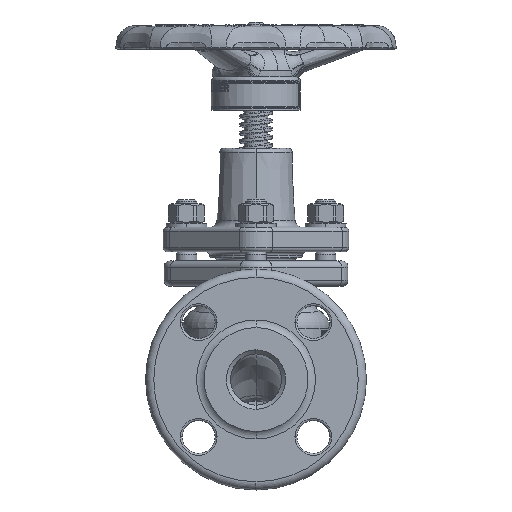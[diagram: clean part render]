
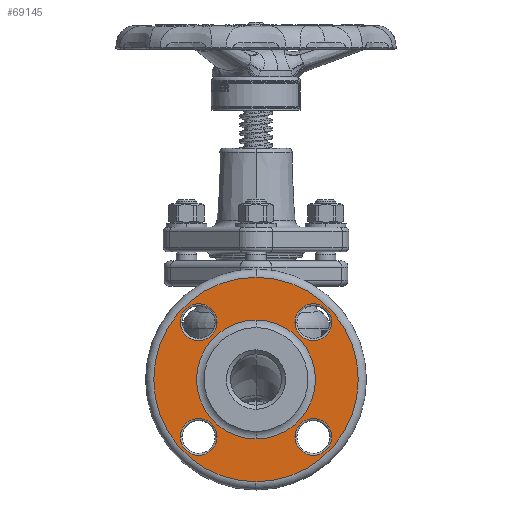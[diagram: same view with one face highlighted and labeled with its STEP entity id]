
A CAD part, left-side view. The second image highlights one B-rep face of the part: STEP entity #69145.
In plain terms, the highlighted planar face has unit normal (-1, 0, 0).
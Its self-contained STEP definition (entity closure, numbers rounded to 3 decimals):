
#12141=CARTESIAN_POINT('',(-61.9,0.,0.));
#12142=DIRECTION('',(-1.,0.,0.));
#12143=DIRECTION('',(0.,0.,1.));
#12144=AXIS2_PLACEMENT_3D('',#12141,#12142,#12143);
#12156=CARTESIAN_POINT('',(-61.9,0.,0.));
#12157=DIRECTION('',(1.,0.,0.));
#12158=DIRECTION('',(0.,0.,1.));
#12159=AXIS2_PLACEMENT_3D('',#12156,#12157,#12158);
#12166=CARTESIAN_POINT('',(-61.9,0.,0.));
#12167=DIRECTION('',(-1.,0.,0.));
#12168=DIRECTION('',(0.,0.,1.));
#12169=AXIS2_PLACEMENT_3D('',#12166,#12167,#12168);
#12171=CARTESIAN_POINT('',(-61.9,0.,0.));
#12172=DIRECTION('',(-1.,0.,0.));
#12173=DIRECTION('',(0.,0.,-1.));
#12174=AXIS2_PLACEMENT_3D('',#12171,#12172,#12173);
#12176=CARTESIAN_POINT('',(-61.9,-28.037,28.037));
#12177=DIRECTION('',(1.,0.,0.));
#12178=DIRECTION('',(0.,1.,0.));
#12179=AXIS2_PLACEMENT_3D('',#12176,#12177,#12178);
#12181=CARTESIAN_POINT('',(-61.9,-28.037,28.037));
#12182=DIRECTION('',(1.,0.,0.));
#12183=DIRECTION('',(0.,-1.,0.));
#12184=AXIS2_PLACEMENT_3D('',#12181,#12182,#12183);
#12186=CARTESIAN_POINT('',(-61.9,-28.037,-28.037));
#12187=DIRECTION('',(1.,0.,0.));
#12188=DIRECTION('',(0.,1.,0.));
#12189=AXIS2_PLACEMENT_3D('',#12186,#12187,#12188);
#12191=CARTESIAN_POINT('',(-61.9,-28.037,-28.037));
#12192=DIRECTION('',(1.,0.,0.));
#12193=DIRECTION('',(0.,-1.,0.));
#12194=AXIS2_PLACEMENT_3D('',#12191,#12192,#12193);
#12196=CARTESIAN_POINT('',(-61.9,28.037,-28.037));
#12197=DIRECTION('',(1.,0.,0.));
#12198=DIRECTION('',(0.,1.,0.));
#12199=AXIS2_PLACEMENT_3D('',#12196,#12197,#12198);
#12201=CARTESIAN_POINT('',(-61.9,28.037,-28.037));
#12202=DIRECTION('',(1.,0.,0.));
#12203=DIRECTION('',(0.,-1.,0.));
#12204=AXIS2_PLACEMENT_3D('',#12201,#12202,#12203);
#12206=CARTESIAN_POINT('',(-61.9,28.037,28.037));
#12207=DIRECTION('',(1.,0.,0.));
#12208=DIRECTION('',(0.,1.,0.));
#12209=AXIS2_PLACEMENT_3D('',#12206,#12207,#12208);
#12211=CARTESIAN_POINT('',(-61.9,28.037,28.037));
#12212=DIRECTION('',(1.,0.,0.));
#12213=DIRECTION('',(0.,-1.,0.));
#12214=AXIS2_PLACEMENT_3D('',#12211,#12212,#12213);
#35709=CARTESIAN_POINT('',(-61.9,0.,29.066));
#35710=CARTESIAN_POINT('',(-61.9,0.,-29.066));
#35711=VERTEX_POINT('',#35709);
#35712=VERTEX_POINT('',#35710);
#35759=CARTESIAN_POINT('',(-61.9,0.,50.));
#35760=CARTESIAN_POINT('',(-61.9,0.,-50.));
#35761=VERTEX_POINT('',#35759);
#35762=VERTEX_POINT('',#35760);
#35791=CARTESIAN_POINT('',(-61.9,-19.037,28.037));
#35792=CARTESIAN_POINT('',(-61.9,-37.037,28.037));
#35793=VERTEX_POINT('',#35791);
#35794=VERTEX_POINT('',#35792);
#35821=CARTESIAN_POINT('',(-61.9,-19.037,-28.037));
#35822=CARTESIAN_POINT('',(-61.9,-37.037,-28.037));
#35823=VERTEX_POINT('',#35821);
#35824=VERTEX_POINT('',#35822);
#35853=CARTESIAN_POINT('',(-61.9,37.037,-28.037));
#35854=CARTESIAN_POINT('',(-61.9,19.037,-28.037));
#35855=VERTEX_POINT('',#35853);
#35856=VERTEX_POINT('',#35854);
#35885=CARTESIAN_POINT('',(-61.9,37.037,28.037));
#35886=CARTESIAN_POINT('',(-61.9,19.037,28.037));
#35887=VERTEX_POINT('',#35885);
#35888=VERTEX_POINT('',#35886);
#69106=CARTESIAN_POINT('',(-61.9,0.,0.));
#69107=DIRECTION('',(-1.,0.,0.));
#69108=DIRECTION('',(0.,0.,1.));
#69109=AXIS2_PLACEMENT_3D('',#69106,#69107,#69108);
#69110=PLANE('',#69109);
#69112=ORIENTED_EDGE('',*,*,#69111,.F.);
#69114=ORIENTED_EDGE('',*,*,#69113,.F.);
#69115=EDGE_LOOP('',(#69112,#69114));
#69116=FACE_OUTER_BOUND('',#69115,.F.);
#69117=ORIENTED_EDGE('',*,*,#69086,.T.);
#69118=ORIENTED_EDGE('',*,*,#69100,.F.);
#69119=EDGE_LOOP('',(#69117,#69118));
#69120=FACE_BOUND('',#69119,.F.);
#69122=ORIENTED_EDGE('',*,*,#69121,.F.);
#69124=ORIENTED_EDGE('',*,*,#69123,.F.);
#69125=EDGE_LOOP('',(#69122,#69124));
#69126=FACE_BOUND('',#69125,.F.);
#69128=ORIENTED_EDGE('',*,*,#69127,.F.);
#69130=ORIENTED_EDGE('',*,*,#69129,.F.);
#69131=EDGE_LOOP('',(#69128,#69130));
#69132=FACE_BOUND('',#69131,.F.);
#69134=ORIENTED_EDGE('',*,*,#69133,.F.);
#69136=ORIENTED_EDGE('',*,*,#69135,.F.);
#69137=EDGE_LOOP('',(#69134,#69136));
#69138=FACE_BOUND('',#69137,.F.);
#69140=ORIENTED_EDGE('',*,*,#69139,.F.);
#69142=ORIENTED_EDGE('',*,*,#69141,.F.);
#69143=EDGE_LOOP('',(#69140,#69142));
#69144=FACE_BOUND('',#69143,.F.);
#12145=CIRCLE('',#12144,29.066);
#12160=CIRCLE('',#12159,29.066);
#12170=CIRCLE('',#12169,50.);
#12175=CIRCLE('',#12174,50.);
#12180=CIRCLE('',#12179,9.);
#12185=CIRCLE('',#12184,9.);
#12190=CIRCLE('',#12189,9.);
#12195=CIRCLE('',#12194,9.);
#12200=CIRCLE('',#12199,9.);
#12205=CIRCLE('',#12204,9.);
#12210=CIRCLE('',#12209,9.);
#12215=CIRCLE('',#12214,9.);
#69086=EDGE_CURVE('',#35711,#35712,#12145,.T.);
#69100=EDGE_CURVE('',#35711,#35712,#12160,.T.);
#69111=EDGE_CURVE('',#35761,#35762,#12170,.T.);
#69113=EDGE_CURVE('',#35762,#35761,#12175,.T.);
#69121=EDGE_CURVE('',#35793,#35794,#12180,.T.);
#69123=EDGE_CURVE('',#35794,#35793,#12185,.T.);
#69127=EDGE_CURVE('',#35823,#35824,#12190,.T.);
#69129=EDGE_CURVE('',#35824,#35823,#12195,.T.);
#69133=EDGE_CURVE('',#35855,#35856,#12200,.T.);
#69135=EDGE_CURVE('',#35856,#35855,#12205,.T.);
#69139=EDGE_CURVE('',#35887,#35888,#12210,.T.);
#69141=EDGE_CURVE('',#35888,#35887,#12215,.T.);
#69145=ADVANCED_FACE('',(#69116,#69120,#69126,#69132,#69138,#69144),#69110,.T.);
